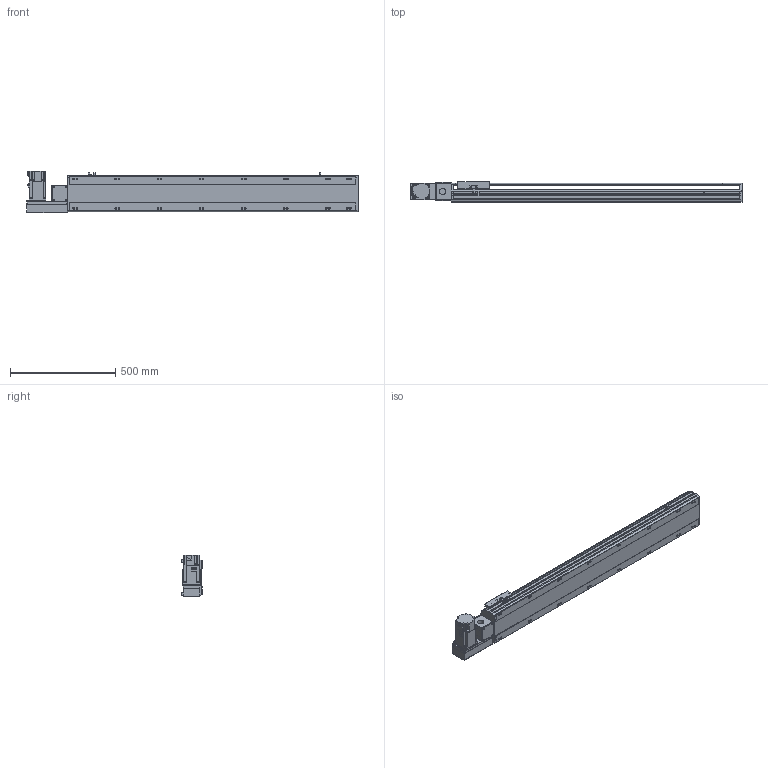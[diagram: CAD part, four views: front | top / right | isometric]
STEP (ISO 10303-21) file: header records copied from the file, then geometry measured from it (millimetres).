
FILE_DESCRIPTION( ( 'STEP AP214' ), '1' );
FILE_NAME( 'x:/temp/worker_2/temp/exporttempdir_1320_64_16yF2/format_0/PBS170-P40-S1100-L-T75-C1-N(0).stp', '2022-06-07T06:55:07', ( 'License CC BY-ND 4.0' ), ( 'CADENAS' ), ' ', 'PARTsolutions', ' ' );
FILE_SCHEMA( ( 'AUTOMOTIVE_DESIGN { 1 0 10303 214 1 1 1 1 }' ) );
Length unit declared in the file: millimetre
Products named in the file (7): PBS170-P40-S1100-L-T75-C1-N(0); _PBS170-S1100()_body; _PBS170T-L_motors; _T75-p1; _PBS170_sliser; _PBS170_plant; _PBS170_sensor
Assembly tree (8 placements, depth 2):
  PBS170-P40-S1100-L-T75-C1-N(0)
    _PBS170-S1100()_body
    _PBS170T-L_motors
    _T75-p1
    _PBS170_sliser
    _PBS170_plant
    _PBS170_sensor  x3
Bounding box: 1578 x 97 x 197.3 mm (x, y, z)
Volume: 11701873.6 mm3; surface area: 1526560.8 mm2
Topology: 8 solids, 8 shells, 1082 faces, 2875 edges, 1874 vertices
Faces by surface type: plane 687, cylinder 339, cone 46, sphere 8, torus 2
Full cylindrical faces by diameter (mm): 3.242 x4, 4 x2, 4.4 x4, 4.5 x6, 4.917 x4, 6 x9, 6.647 x24, 7 x2, 7.5 x4, 8 x8, 8.5 x16, 10 x4, 10.5 x16, 11 x2, 30 x2, 40 x1, 70 x1
Entity records: 39740 total; most frequent: CARTESIAN_POINT 6221, DIRECTION 5300, ORIENTED_EDGE 5028, EDGE_CURVE 2514, AXIS2_PLACEMENT_3D 1837, VERTEX_POINT 1730, LINE 1626, VECTOR 1626
